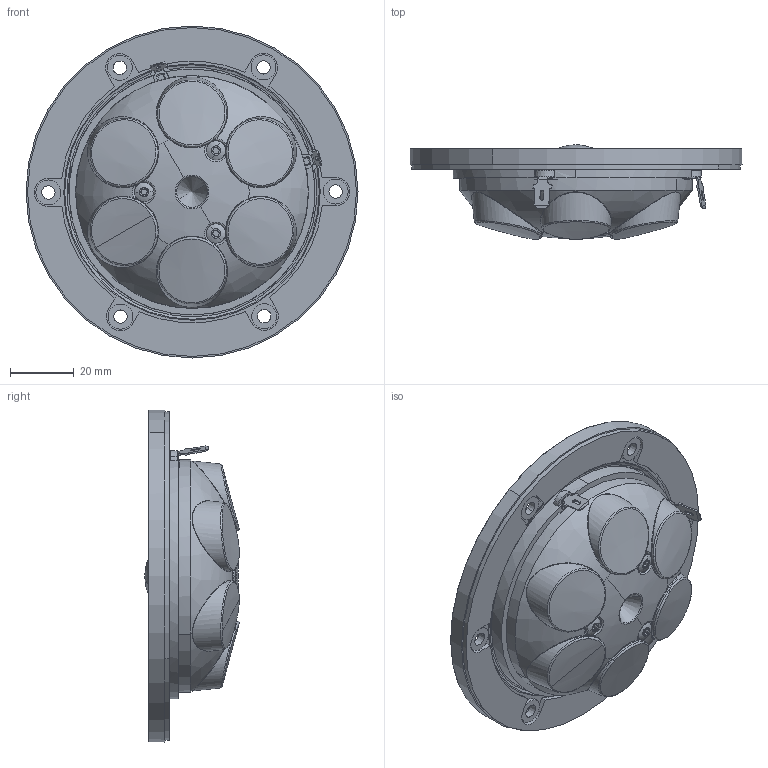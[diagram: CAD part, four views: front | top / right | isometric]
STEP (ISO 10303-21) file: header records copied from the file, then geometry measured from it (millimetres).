
FILE_DESCRIPTION (( 'STEP AP214' ), '1' );
FILE_NAME ('D3004-660000.STEP', '2020-10-29T07:04:03', ( '' ), ( '' ), 'SwSTEP 2.0', 'SolidWorks 2019', '' );
FILE_SCHEMA (( 'AUTOMOTIVE_DESIGN' ));
Length unit declared in the file: millimetre
Products named in the file (1): D3004-660000
Bounding box: 103.96 x 29.6 x 103.96 mm (x, y, z)
Volume: 111672.5 mm3; surface area: 29988.4 mm2
Topology: 1 solids, 14 shells, 578 faces, 1476 edges, 939 vertices
Faces by surface type: cylinder 149, bspline 147, plane 107, cone 92, torus 55, sphere 28
Entity records: 41821 total; most frequent: CARTESIAN_POINT 22976, ORIENTED_EDGE 2948, DIRECTION 2371, EDGE_CURVE 1474, AXIS2_PLACEMENT_3D 1002, VERTEX_POINT 939, EDGE_LOOP 611, FACE_OUTER_BOUND 578
